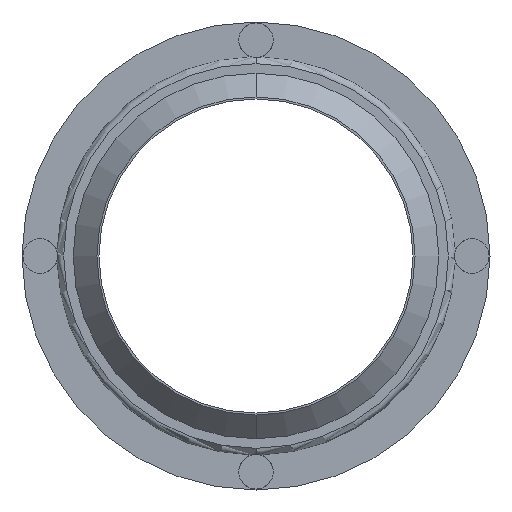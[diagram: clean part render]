
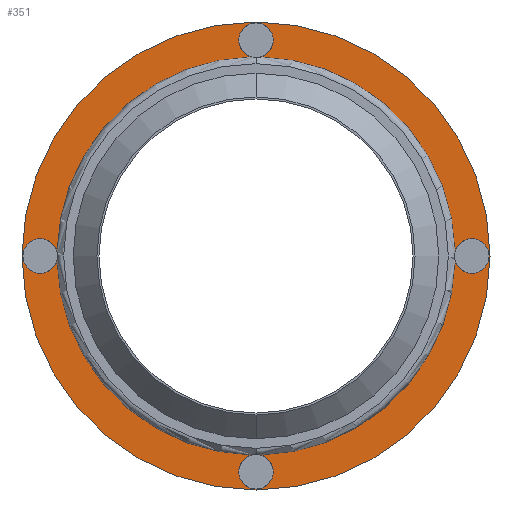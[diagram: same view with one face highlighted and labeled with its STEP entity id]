
A CAD part, front view. The second image highlights one B-rep face of the part: STEP entity #351.
In plain terms, the highlighted planar face has unit normal (0, -1, 0).
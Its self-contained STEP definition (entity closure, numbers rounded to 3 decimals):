
#2 = DIRECTION ( 'NONE',  ( 0., 1., 0. ) ) ;
#3 = ORIENTED_EDGE ( 'NONE', *, *, #667, .F. ) ;
#11 = CIRCLE ( 'NONE', #987, 34.5 ) ;
#25 = CARTESIAN_POINT ( 'NONE',  ( 0.636, 12.413, 29.343 ) ) ;
#32 = CARTESIAN_POINT ( 'NONE',  ( 0., 12.413, 34.363 ) ) ;
#39 = ORIENTED_EDGE ( 'NONE', *, *, #462, .T. ) ;
#48 = PLANE ( 'NONE',  #1045 ) ;
#53 = CIRCLE ( 'NONE', #188, 29.35 ) ;
#76 = EDGE_LOOP ( 'NONE', ( #772, #914 ) ) ;
#77 = CARTESIAN_POINT ( 'NONE',  ( -31.813, 12.413, 2.55 ) ) ;
#81 = CIRCLE ( 'NONE', #573, 2.55 ) ;
#98 = CARTESIAN_POINT ( 'NONE',  ( 29.343, 12.413, -0.636 ) ) ;
#104 = DIRECTION ( 'NONE',  ( 0., 0., 1. ) ) ;
#108 = AXIS2_PLACEMENT_3D ( 'NONE', #851, #690, #352 ) ;
#146 = AXIS2_PLACEMENT_3D ( 'NONE', #880, #210, #965 ) ;
#157 = ORIENTED_EDGE ( 'NONE', *, *, #294, .T. ) ;
#170 = ORIENTED_EDGE ( 'NONE', *, *, #654, .T. ) ;
#175 = EDGE_CURVE ( 'NONE', #801, #203, #916, .T. ) ;
#181 = CARTESIAN_POINT ( 'NONE',  ( 31.813, 12.413, -2.55 ) ) ;
#188 = AXIS2_PLACEMENT_3D ( 'NONE', #1025, #606, #943 ) ;
#190 = DIRECTION ( 'NONE',  ( 0., 1., 0. ) ) ;
#203 = VERTEX_POINT ( 'NONE', #32 ) ;
#206 = EDGE_CURVE ( 'NONE', #328, #1010, #11, .T. ) ;
#210 = DIRECTION ( 'NONE',  ( 0., 1., 0. ) ) ;
#215 = EDGE_CURVE ( 'NONE', #284, #689, #426, .T. ) ;
#217 = VERTEX_POINT ( 'NONE', #98 ) ;
#261 = CARTESIAN_POINT ( 'NONE',  ( 0.636, 12.413, -29.343 ) ) ;
#265 = CARTESIAN_POINT ( 'NONE',  ( 0., 12.413, 0. ) ) ;
#274 = ORIENTED_EDGE ( 'NONE', *, *, #1078, .F. ) ;
#275 = CIRCLE ( 'NONE', #108, 34.5 ) ;
#283 = ORIENTED_EDGE ( 'NONE', *, *, #971, .T. ) ;
#284 = VERTEX_POINT ( 'NONE', #692 ) ;
#294 = EDGE_CURVE ( 'NONE', #840, #387, #1033, .T. ) ;
#301 = CARTESIAN_POINT ( 'NONE',  ( 0., 12.413, 0. ) ) ;
#311 = CARTESIAN_POINT ( 'NONE',  ( 29.343, 12.413, 0.636 ) ) ;
#313 = DIRECTION ( 'NONE',  ( 0., 1., 0. ) ) ;
#318 = AXIS2_PLACEMENT_3D ( 'NONE', #301, #1058, #640 ) ;
#327 = DIRECTION ( 'NONE',  ( 0., 0., 1. ) ) ;
#328 = VERTEX_POINT ( 'NONE', #539 ) ;
#344 = VERTEX_POINT ( 'NONE', #800 ) ;
#346 = DIRECTION ( 'NONE',  ( 0., -1., 0. ) ) ;
#351 = ADVANCED_FACE ( 'NONE', ( #634, #871 ), #48, .F. ) ;
#352 = DIRECTION ( 'NONE',  ( 0., 0., -1. ) ) ;
#355 = DIRECTION ( 'NONE',  ( 0., -1., 0. ) ) ;
#358 = CARTESIAN_POINT ( 'NONE',  ( -31.813, 12.413, 0. ) ) ;
#363 = CARTESIAN_POINT ( 'NONE',  ( 0., 12.413, -34.362 ) ) ;
#371 = EDGE_CURVE ( 'NONE', #488, #530, #527, .T. ) ;
#373 = DIRECTION ( 'NONE',  ( 1., 0., 0. ) ) ;
#377 = AXIS2_PLACEMENT_3D ( 'NONE', #427, #2, #104 ) ;
#387 = VERTEX_POINT ( 'NONE', #363 ) ;
#393 = AXIS2_PLACEMENT_3D ( 'NONE', #1036, #974, #806 ) ;
#426 = CIRCLE ( 'NONE', #1040, 2.55 ) ;
#427 = CARTESIAN_POINT ( 'NONE',  ( -31.813, 12.413, 0. ) ) ;
#462 = EDGE_CURVE ( 'NONE', #203, #632, #963, .T. ) ;
#472 = DIRECTION ( 'NONE',  ( 0., 0., 1. ) ) ;
#483 = AXIS2_PLACEMENT_3D ( 'NONE', #746, #313, #1063 ) ;
#488 = VERTEX_POINT ( 'NONE', #575 ) ;
#504 = AXIS2_PLACEMENT_3D ( 'NONE', #358, #515, #1034 ) ;
#510 = DIRECTION ( 'NONE',  ( 0., 1., 0. ) ) ;
#512 = ORIENTED_EDGE ( 'NONE', *, *, #215, .T. ) ;
#513 = DIRECTION ( 'NONE',  ( 0., 0., 1. ) ) ;
#515 = DIRECTION ( 'NONE',  ( 0., 1., 0. ) ) ;
#527 = CIRCLE ( 'NONE', #146, 2.55 ) ;
#529 = CIRCLE ( 'NONE', #787, 29.35 ) ;
#530 = VERTEX_POINT ( 'NONE', #740 ) ;
#539 = CARTESIAN_POINT ( 'NONE',  ( 0., 12.413, 34.5 ) ) ;
#540 = ORIENTED_EDGE ( 'NONE', *, *, #893, .T. ) ;
#555 = CIRCLE ( 'NONE', #861, 29.35 ) ;
#562 = EDGE_CURVE ( 'NONE', #387, #344, #81, .T. ) ;
#567 = EDGE_CURVE ( 'NONE', #793, #810, #1047, .T. ) ;
#573 = AXIS2_PLACEMENT_3D ( 'NONE', #695, #190, #327 ) ;
#575 = CARTESIAN_POINT ( 'NONE',  ( -29.343, 12.413, -0.636 ) ) ;
#599 = DIRECTION ( 'NONE',  ( 0., -1., 0. ) ) ;
#606 = DIRECTION ( 'NONE',  ( 0., -1., 0. ) ) ;
#619 = DIRECTION ( 'NONE',  ( 0., 1., 0. ) ) ;
#620 = AXIS2_PLACEMENT_3D ( 'NONE', #653, #1070, #920 ) ;
#621 = EDGE_CURVE ( 'NONE', #758, #632, #555, .T. ) ;
#622 = ORIENTED_EDGE ( 'NONE', *, *, #371, .T. ) ;
#628 = CIRCLE ( 'NONE', #318, 29.35 ) ;
#632 = VERTEX_POINT ( 'NONE', #25 ) ;
#634 = FACE_BOUND ( 'NONE', #1044, .T. ) ;
#640 = DIRECTION ( 'NONE',  ( 0., 0., 1. ) ) ;
#653 = CARTESIAN_POINT ( 'NONE',  ( 0., 12.413, 31.813 ) ) ;
#654 = EDGE_CURVE ( 'NONE', #689, #217, #702, .T. ) ;
#667 = EDGE_CURVE ( 'NONE', #488, #344, #529, .T. ) ;
#677 = DIRECTION ( 'NONE',  ( 0., 0., 1. ) ) ;
#681 = ORIENTED_EDGE ( 'NONE', *, *, #562, .T. ) ;
#688 = EDGE_CURVE ( 'NONE', #1010, #328, #275, .T. ) ;
#689 = VERTEX_POINT ( 'NONE', #181 ) ;
#690 = DIRECTION ( 'NONE',  ( 0., -1., 0. ) ) ;
#692 = CARTESIAN_POINT ( 'NONE',  ( 31.813, 12.413, 2.55 ) ) ;
#694 = EDGE_CURVE ( 'NONE', #840, #217, #53, .T. ) ;
#695 = CARTESIAN_POINT ( 'NONE',  ( 0., 12.413, -31.813 ) ) ;
#702 = CIRCLE ( 'NONE', #891, 2.55 ) ;
#735 = AXIS2_PLACEMENT_3D ( 'NONE', #1042, #619, #472 ) ;
#740 = CARTESIAN_POINT ( 'NONE',  ( -31.813, 12.413, -2.55 ) ) ;
#746 = CARTESIAN_POINT ( 'NONE',  ( 0., 12.413, 31.813 ) ) ;
#747 = CARTESIAN_POINT ( 'NONE',  ( -0.636, 12.413, 29.343 ) ) ;
#758 = VERTEX_POINT ( 'NONE', #311 ) ;
#772 = ORIENTED_EDGE ( 'NONE', *, *, #688, .T. ) ;
#779 = CARTESIAN_POINT ( 'NONE',  ( 0., 12.413, 0. ) ) ;
#787 = AXIS2_PLACEMENT_3D ( 'NONE', #265, #346, #845 ) ;
#793 = VERTEX_POINT ( 'NONE', #77 ) ;
#800 = CARTESIAN_POINT ( 'NONE',  ( -0.636, 12.413, -29.343 ) ) ;
#801 = VERTEX_POINT ( 'NONE', #747 ) ;
#806 = DIRECTION ( 'NONE',  ( 0., 0., 1. ) ) ;
#808 = CARTESIAN_POINT ( 'NONE',  ( -34.5, 12.413, 0. ) ) ;
#810 = VERTEX_POINT ( 'NONE', #944 ) ;
#840 = VERTEX_POINT ( 'NONE', #261 ) ;
#845 = DIRECTION ( 'NONE',  ( 0., 0., 1. ) ) ;
#851 = CARTESIAN_POINT ( 'NONE',  ( 0., 12.413, 0. ) ) ;
#855 = CARTESIAN_POINT ( 'NONE',  ( 0., 12.413, 0. ) ) ;
#861 = AXIS2_PLACEMENT_3D ( 'NONE', #779, #599, #677 ) ;
#871 = FACE_OUTER_BOUND ( 'NONE', #76, .T. ) ;
#872 = CIRCLE ( 'NONE', #504, 2.55 ) ;
#880 = CARTESIAN_POINT ( 'NONE',  ( -31.813, 12.413, 0. ) ) ;
#889 = CARTESIAN_POINT ( 'NONE',  ( 0., 12.413, -34.5 ) ) ;
#891 = AXIS2_PLACEMENT_3D ( 'NONE', #1016, #1021, #513 ) ;
#893 = EDGE_CURVE ( 'NONE', #530, #793, #872, .T. ) ;
#914 = ORIENTED_EDGE ( 'NONE', *, *, #206, .T. ) ;
#916 = CIRCLE ( 'NONE', #620, 2.55 ) ;
#920 = DIRECTION ( 'NONE',  ( 0., 0., 1. ) ) ;
#925 = ORIENTED_EDGE ( 'NONE', *, *, #694, .F. ) ;
#926 = DIRECTION ( 'NONE',  ( 0., 0., 1. ) ) ;
#927 = CIRCLE ( 'NONE', #393, 2.55 ) ;
#928 = ORIENTED_EDGE ( 'NONE', *, *, #621, .F. ) ;
#940 = DIRECTION ( 'NONE',  ( 0., 0., -1. ) ) ;
#943 = DIRECTION ( 'NONE',  ( 0., 0., 1. ) ) ;
#944 = CARTESIAN_POINT ( 'NONE',  ( -29.343, 12.413, 0.636 ) ) ;
#954 = DIRECTION ( 'NONE',  ( 0., 1., 0. ) ) ;
#963 = CIRCLE ( 'NONE', #483, 2.55 ) ;
#965 = DIRECTION ( 'NONE',  ( 0., 0., 1. ) ) ;
#971 = EDGE_CURVE ( 'NONE', #758, #284, #927, .T. ) ;
#972 = CARTESIAN_POINT ( 'NONE',  ( 31.813, 12.413, 0. ) ) ;
#974 = DIRECTION ( 'NONE',  ( 0., 1., 0. ) ) ;
#987 = AXIS2_PLACEMENT_3D ( 'NONE', #855, #355, #940 ) ;
#1010 = VERTEX_POINT ( 'NONE', #889 ) ;
#1016 = CARTESIAN_POINT ( 'NONE',  ( 31.813, 12.413, 0. ) ) ;
#1021 = DIRECTION ( 'NONE',  ( 0., 1., 0. ) ) ;
#1025 = CARTESIAN_POINT ( 'NONE',  ( 0., 12.413, 0. ) ) ;
#1033 = CIRCLE ( 'NONE', #735, 2.55 ) ;
#1034 = DIRECTION ( 'NONE',  ( 0., 0., 1. ) ) ;
#1036 = CARTESIAN_POINT ( 'NONE',  ( 31.813, 12.413, 0. ) ) ;
#1040 = AXIS2_PLACEMENT_3D ( 'NONE', #972, #510, #926 ) ;
#1042 = CARTESIAN_POINT ( 'NONE',  ( 0., 12.413, -31.813 ) ) ;
#1044 = EDGE_LOOP ( 'NONE', ( #274, #1053, #39, #928, #283, #512, #170, #925, #157, #681, #3, #622, #540, #1077 ) ) ;
#1045 = AXIS2_PLACEMENT_3D ( 'NONE', #808, #954, #373 ) ;
#1047 = CIRCLE ( 'NONE', #377, 2.55 ) ;
#1053 = ORIENTED_EDGE ( 'NONE', *, *, #175, .T. ) ;
#1058 = DIRECTION ( 'NONE',  ( 0., -1., 0. ) ) ;
#1063 = DIRECTION ( 'NONE',  ( 0., 0., 1. ) ) ;
#1070 = DIRECTION ( 'NONE',  ( 0., 1., 0. ) ) ;
#1077 = ORIENTED_EDGE ( 'NONE', *, *, #567, .T. ) ;
#1078 = EDGE_CURVE ( 'NONE', #801, #810, #628, .T. ) ;
